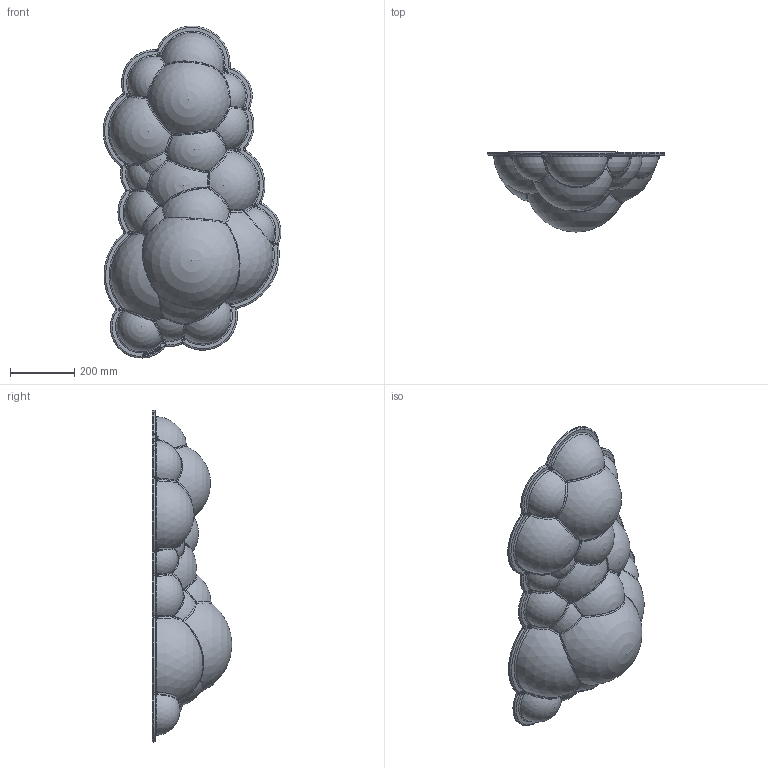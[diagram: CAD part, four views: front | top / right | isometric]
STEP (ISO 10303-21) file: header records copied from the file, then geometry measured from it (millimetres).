
FILE_DESCRIPTION (( 'STEP AP214' ), '1' );
FILE_NAME ('800NUMLWW311_ASSIEME NUVOLA MINOR PARETE ALTA ALTA H25 45W.STEP', '2023-01-20T09:38:52', ( '' ), ( '' ), 'SwSTEP 2.0', 'SolidWorks 2016', '' );
FILE_SCHEMA (( 'AUTOMOTIVE_DESIGN' ));
Length unit declared in the file: millimetre
Products named in the file (6): 052NUM000110_GUSCIO INFERIORE_NUVOLA MINOR_scalato 2-3 0,66; 003COM000017_DADO PLAST M6 ESAG CUPOLA DIN1587 CIECO NEUTRO; 003558800004_DADO ESAG M4 NIBI; passacavo STEAB 6236-3-5_019COM000234; 800NUMLWW311_ASSIEME NUVOLA MINOR PARETE ALTA ALTA H25 45W; 010NUM700100_STRUTT. INTERNA GREZ NUV MINOR
Assembly tree (18 placements, depth 2):
  800NUMLWW311_ASSIEME NUVOLA MINOR PARETE ALTA ALTA H25 45W
    052NUM000110_GUSCIO INFERIORE_NUVOLA MINOR_scalato 2-3 0,66
    003COM000017_DADO PLAST M6 ESAG CUPOLA DIN1587 CIECO NEUTRO  x14
    010NUM700100_STRUTT. INTERNA GREZ NUV MINOR
    passacavo STEAB 6236-3-5_019COM000234
    003558800004_DADO ESAG M4 NIBI
Bounding box: 552.88 x 248.04 x 1032.7 mm (x, y, z)
Volume: 2802278.9 mm3; surface area: 2083143.9 mm2
Topology: 22 solids, 22 shells, 1837 faces, 4839 edges, 2996 vertices
Faces by surface type: plane 670, cylinder 475, torus 308, bspline 192, sphere 136, cone 56
Entity records: 51125 total; most frequent: CARTESIAN_POINT 15516, DIRECTION 7489, ORIENTED_EDGE 7430, EDGE_CURVE 3715, AXIS2_PLACEMENT_3D 3039, VERTEX_POINT 2370, CIRCLE 1828, EDGE_LOOP 1573
